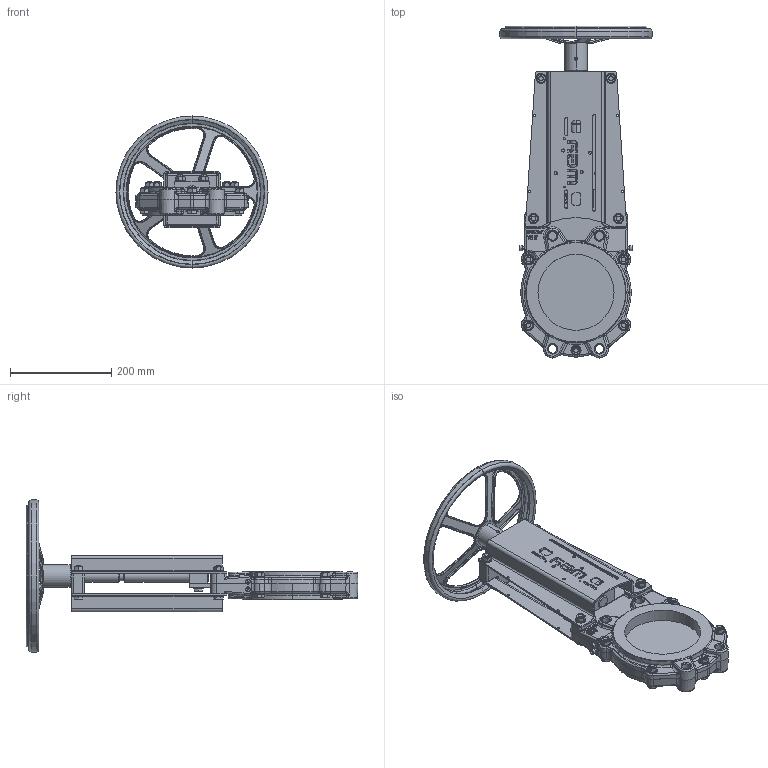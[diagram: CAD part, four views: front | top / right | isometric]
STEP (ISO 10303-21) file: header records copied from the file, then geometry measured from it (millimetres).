
FILE_DESCRIPTION (( 'STEP AP214' ), '1' );
FILE_NAME ('VSA DN 0150.STEP', '2015-09-23T10:55:10', ( 'admin' ), ( 'Hewlett-Packard Company' ), 'SwSTEP 2.0', 'SolidWorks 2013', '' );
FILE_SCHEMA (( 'AUTOMOTIVE_DESIGN' ));
Length unit declared in the file: millimetre
Products named in the file (1): VSA DN 0150
Bounding box: 300 x 654.97 x 300 mm (x, y, z)
Volume: 2997057.8 mm3; surface area: 770909.4 mm2
Topology: 52 solids, 53 shells, 2495 faces, 6006 edges, 3601 vertices
Faces by surface type: plane 815, cylinder 688, cone 441, bspline 355, torus 167, sphere 29
Entity records: 117475 total; most frequent: CARTESIAN_POINT 33736, ORIENTED_EDGE 11864, DIRECTION 11292, EDGE_CURVE 5932, AXIS2_PLACEMENT_3D 4475, VERTEX_POINT 3601, EDGE_LOOP 2753, UNCERTAINTY_MEASURE_WITH_UNIT 2549
